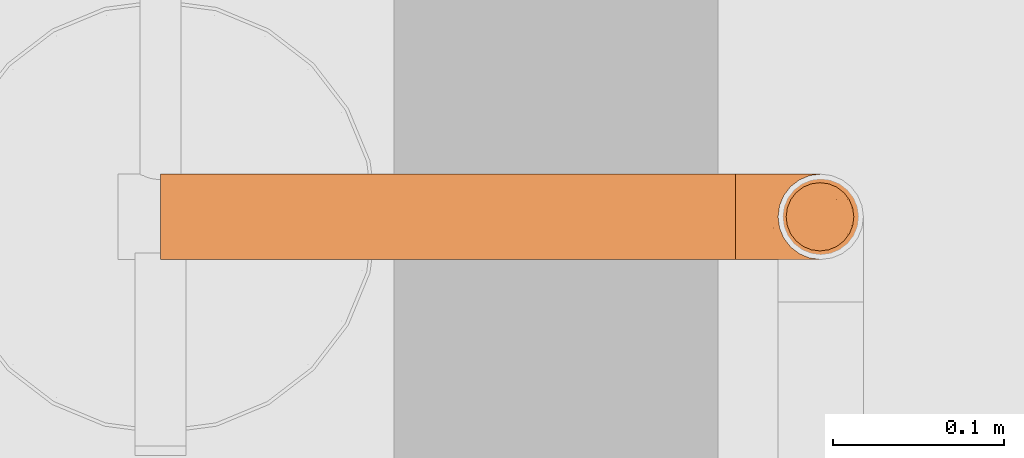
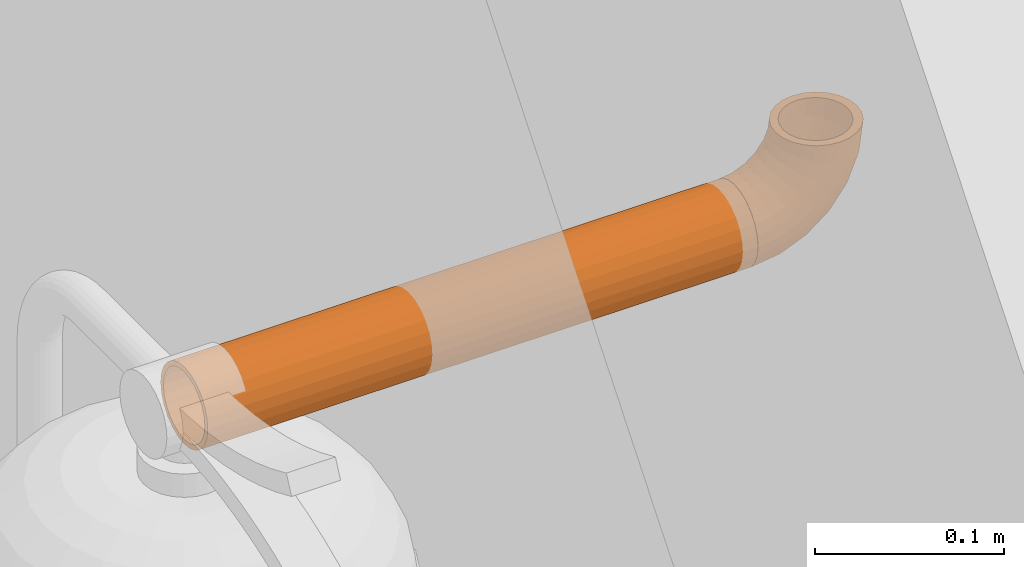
# One storey, part 111 of 112: 2 proxies.
"""IFC2X3 building model written with IfcOpenShell, lengths in millimetres."""

import ifcopenshell
import ifcopenshell.guid

model = None  # the IFC model being written
_history = None  # IfcOwnerHistory: only IFC2X3 demands one
_inside = {}  # id of a spatial element -> (the spatial element, [elements in it])
_under = {}  # id of a project, library or spatial element -> (it, [spatial elements below it])
_declared = {}  # id of a project -> (the project, [libraries it declares])
_typed = {}  # id of a type object -> (the type object, [elements of that type])
_made_of = {}  # id of a material, layer set ... -> (it, [elements and type objects made of it])


def new_model(schema):
    """Start an empty IFC model of exactly this schema.

    Asked for "IFC4X3", IfcOpenShell would pick the latest addendum, in which some entities
    have other attributes; the version numbers below select the first issue.
    IFC2X3 requires an IfcOwnerHistory on every rooted entity: one is made here for all.
    """
    global model, _history
    if schema == "IFC4X3":
        model = ifcopenshell.file(schema_version=(4, 3, 0, 0))
    else:
        model = ifcopenshell.file(schema=schema)
    _inside.clear()
    _under.clear()
    _declared.clear()
    _typed.clear()
    _made_of.clear()
    _history = None
    if model.schema == "IFC2X3":
        org = make("IfcOrganization", Name="unknown")
        user = make(
            "IfcPersonAndOrganization",
            ThePerson=make("IfcPerson", FamilyName="unknown"),
            TheOrganization=org,
        )
        app = make(
            "IfcApplication",
            ApplicationDeveloper=org,
            Version="unknown",
            ApplicationFullName="unknown",
            ApplicationIdentifier="unknown",
        )
        _history = make(
            "IfcOwnerHistory",
            OwningUser=user,
            OwningApplication=app,
            ChangeAction="ADDED",
            CreationDate=0,
        )
    return model


def make(cls, **values):
    """One entity of the class cls with the attributes given. An attribute that is None is left unset."""
    return model.create_entity(
        cls, **{name: value for name, value in values.items() if value is not None}
    )


def entity(cls, *values):
    """Any entity or typed value of the class cls, its attributes in the order of the schema. None: left unset."""
    e = model.create_entity(cls)
    for i, value in enumerate(values):
        if value is not None:
            e[i] = value
    return e


def rooted(cls, **values):
    """An entity with a GlobalId (a new one), such as an element, a storey or a relation."""
    return make(cls, GlobalId=ifcopenshell.guid.new(), OwnerHistory=_history, **values)


def si_unit(unit_type, name, prefix=None):
    """IfcSIUnit, for example si_unit("LENGTHUNIT", "METRE", prefix="MILLI")."""
    return make("IfcSIUnit", UnitType=unit_type, Prefix=prefix, Name=name)


def converted_unit(unit_type, name, factor, base, dimensions=None, offset=None):
    """IfcConversionBasedUnit, such as the inch: factor (a typed value) times the base unit."""
    return make(
        "IfcConversionBasedUnit"
        if offset is None
        else "IfcConversionBasedUnitWithOffset",
        ConversionOffset=offset,
        Dimensions=None
        if dimensions is None
        else entity("IfcDimensionalExponents", *dimensions),
        UnitType=unit_type,
        Name=name,
        ConversionFactor=make(
            "IfcMeasureWithUnit", ValueComponent=factor, UnitComponent=base
        ),
    )


def derived_unit(unit_type, elements):
    """IfcDerivedUnit: a product of units, each with its exponent."""
    return make(
        "IfcDerivedUnit",
        Elements=[
            make("IfcDerivedUnitElement", Unit=unit, Exponent=power)
            for unit, power in elements
        ],
        UnitType=unit_type,
    )


def money_unit(currency):
    """IfcMonetaryUnit."""
    return make("IfcMonetaryUnit", Currency=currency)


def assignment(units):
    """IfcUnitAssignment: the units of a project."""
    return None if units is None else make("IfcUnitAssignment", Units=units)


def point(xyz):
    """IfcCartesianPoint."""
    return None if xyz is None else make("IfcCartesianPoint", Coordinates=xyz)


def direction(xyz):
    """IfcDirection."""
    return None if xyz is None else make("IfcDirection", DirectionRatios=xyz)


def frame(location, z_axis=None, x_axis=None):
    """IfcAxis2Placement3D, a coordinate frame: its origin and axes. An axis left out is left unset."""
    return make(
        "IfcAxis2Placement3D",
        Location=point(location),
        Axis=direction(z_axis),
        RefDirection=direction(x_axis),
    )


def origin_with_axes():
    """The frame at (0, 0, 0) with the z axis (0, 0, 1) and the x axis (1, 0, 0) written out."""
    return frame((0.0, 0.0, 0.0), z_axis=(0.0, 0.0, 1.0), x_axis=(1.0, 0.0, 0.0))


def place(relative_to, where):
    """IfcLocalPlacement: puts the frame where relative to a parent placement (None: the world)."""
    return make(
        "IfcLocalPlacement", PlacementRelTo=relative_to, RelativePlacement=where
    )


def context(
    kind, dimensions, precision=None, world=None, true_north=None, identifier=None
):
    """IfcGeometricRepresentationContext, for example the 3D "Model" context."""
    return make(
        "IfcGeometricRepresentationContext",
        ContextIdentifier=identifier,
        ContextType=kind,
        CoordinateSpaceDimension=dimensions,
        Precision=precision,
        WorldCoordinateSystem=world,
        TrueNorth=true_north,
    )


def subcontext(parent, identifier, kind, view, scale=None):
    """IfcGeometricRepresentationSubContext, for example "Body" below "Model"."""
    return make(
        "IfcGeometricRepresentationSubContext",
        ContextIdentifier=identifier,
        ContextType=kind,
        ParentContext=parent,
        TargetScale=scale,
        TargetView=view,
    )


def project(units=None, contexts=None):
    """IfcProject with its units and contexts."""
    return rooted(
        "IfcProject",
        Name="project",
        RepresentationContexts=contexts,
        UnitsInContext=assignment(units),
    )


def spatial(cls, under=None, at=None, **own):
    """A site, building, storey or space (cls), placed at a placement, below another one or the project."""
    s = rooted(cls, ObjectPlacement=at, **own)
    if under is not None:
        _under.setdefault(under.id(), (under, []))[1].append(s)
    return s


def faces_of(points, faces, orient=None, outer=None):
    """IfcFace entities. A face is a list of loops; a loop is a list of indices into points, from 0.

    orient and outer hold one flag for each loop. By default every Orientation is true, the
    first loop of a face is its IfcFaceOuterBound and the others are IfcFaceBound.
    """
    made = []
    for i, loops in enumerate(faces):
        bounds = []
        for j, loop in enumerate(loops):
            is_outer = j == 0 if outer is None else outer[i][j]
            bounds.append(
                make(
                    "IfcFaceOuterBound" if is_outer else "IfcFaceBound",
                    Bound=make("IfcPolyLoop", Polygon=[points[k] for k in loop]),
                    Orientation=True if orient is None else orient[i][j],
                )
            )
        made.append(make("IfcFace", Bounds=bounds))
    return made


def faceted_brep(points, faces, orient=None, outer=None, voids=None):
    """IfcFacetedBrep: a solid bounded by flat faces; with voids (closed shells), ...WithVoids."""
    shared = [point(p) for p in points]
    hull = make("IfcClosedShell", CfsFaces=faces_of(shared, faces, orient, outer))
    if voids is None:
        return make("IfcFacetedBrep", Outer=hull)
    return make(
        "IfcFacetedBrepWithVoids",
        Outer=hull,
        Voids=[
            make(cls, CfsFaces=faces_of(shared, fs, o, b)) for cls, fs, o, b in voids
        ],
    )


def shape(context_of_items, identifier, shape_type, items):
    """IfcShapeRepresentation: the items that make up one representation, for example the "Body"."""
    return make(
        "IfcShapeRepresentation",
        ContextOfItems=context_of_items,
        RepresentationIdentifier=identifier,
        RepresentationType=shape_type,
        Items=items,
    )


def made_of(thing, what):
    """Note that an element or type object is made of a material, layer set ...; save() writes the relation."""
    if what is not None:
        _made_of.setdefault(what.id(), (what, []))[1].append(thing)
    return thing


def type_object(cls, material=None, **own):
    """A type object (cls), such as IfcWallType, which elements share."""
    return made_of(rooted(cls, **own), material)


def element(
    cls,
    number,
    at=None,
    inside=None,
    cuts=None,
    type_object=None,
    material=None,
    context=None,
    identifier="Body",
    shape_type=None,
    held_by="IfcProductDefinitionShape",
    body=None,
    shapes=None,
    **own,
):
    """One element of the class cls, such as IfcWall. Its Tag is "e" and its number.

    at: its placement. inside: the storey or other place that contains it. cuts: it is an
    opening in that element (IfcRelVoidsElement). A single representation is given by context,
    identifier, shape_type and body (its items); several are given by shapes. held_by: the class
    of the entity that holds the representations. save() writes the other relations.
    """
    e = rooted(cls, Tag="e%d" % number, ObjectPlacement=at, **own)
    if body is not None:
        shapes = [shape(context, identifier, shape_type, body)]
    if shapes is not None:
        e.Representation = make(held_by, Representations=shapes)
    if inside is not None:
        _inside.setdefault(inside.id(), (inside, []))[1].append(e)
    if cuts is not None:
        rooted(
            "IfcRelVoidsElement", RelatingBuildingElement=cuts, RelatedOpeningElement=e
        )
    if type_object is not None:
        _typed.setdefault(type_object.id(), (type_object, []))[1].append(e)
    return made_of(e, material)


def aggregate(whole, parts):
    """IfcRelAggregates: a whole, such as a stair, and the parts it consists of."""
    return rooted("IfcRelAggregates", RelatingObject=whole, RelatedObjects=parts)


def save(model, path):
    """Write the relations noted so far, then the file.

    IfcRelAggregates (storeys below a building ...), IfcRelContainedInSpatialStructure (elements
    in a storey), IfcRelDefinesByType, IfcRelAssociatesMaterial and IfcRelDeclares: one each for
    every whole, place, type object, material and project.
    """
    for whole, parts in _under.values():
        aggregate(whole, parts)
    for where, things in _inside.values():
        rooted(
            "IfcRelContainedInSpatialStructure",
            RelatedElements=things,
            RelatingStructure=where,
        )
    for kind, things in _typed.values():
        rooted("IfcRelDefinesByType", RelatedObjects=things, RelatingType=kind)
    for what, things in _made_of.values():
        rooted("IfcRelAssociatesMaterial", RelatedObjects=things, RelatingMaterial=what)
    for by, libraries in _declared.values():
        rooted("IfcRelDeclares", RelatingContext=by, RelatedDefinitions=libraries)
    model.write(path)


model = new_model("IFC2X3")

# Units and contexts
model_context = context("Model", 3, precision=0.01, world=origin_with_axes(), true_north=direction((0.0, 1.0)))
body_context = subcontext(model_context, "Body", "Model", "MODEL_VIEW")
ifc_project = project(units=[si_unit("LENGTHUNIT", "METRE", prefix="MILLI"), si_unit("AREAUNIT", "SQUARE_METRE"), si_unit("VOLUMEUNIT", "CUBIC_METRE"), converted_unit("PLANEANGLEUNIT", "DEGREE", entity("IfcPlaneAngleMeasure", 0.0174532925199), si_unit("PLANEANGLEUNIT", "RADIAN"), dimensions=[0, 0, 0, 0, 0, 0, 0]), si_unit("SOLIDANGLEUNIT", "STERADIAN"), money_unit("EUR"), converted_unit("TIMEUNIT", "Year", entity("IfcTimeMeasure", 31556926.0), si_unit("TIMEUNIT", "SECOND"), dimensions=[0, 0, 1, 0, 0, 0, 0]), si_unit("MASSUNIT", "GRAM", prefix="KILO"), si_unit("THERMODYNAMICTEMPERATUREUNIT", "DEGREE_CELSIUS"), si_unit("LUMINOUSINTENSITYUNIT", "LUMEN"), si_unit("ENERGYUNIT", "JOULE", prefix="MEGA"), derived_unit("THERMALCONDUCTANCEUNIT", [(si_unit("POWERUNIT", "WATT"), 1), (si_unit("LENGTHUNIT", "METRE"), -1), (si_unit("THERMODYNAMICTEMPERATUREUNIT", "KELVIN"), -1)]), derived_unit("SPECIFICHEATCAPACITYUNIT", [(si_unit("ENERGYUNIT", "JOULE"), 1), (si_unit("MASSUNIT", "GRAM", prefix="KILO"), -1), (si_unit("THERMODYNAMICTEMPERATUREUNIT", "KELVIN"), -1)]), derived_unit("MASSDENSITYUNIT", [(si_unit("MASSUNIT", "GRAM", prefix="KILO"), 1), (si_unit("VOLUMEUNIT", "CUBIC_METRE"), -1)])], contexts=[model_context])

# Site, building, storey
site_placement = place(None, origin_with_axes())
site = spatial("IfcSite", under=ifc_project, at=site_placement, Name="Politse- ja Piirivalveameti ning Päästeameti ühishoone", CompositionType="ELEMENT")
building_placement = place(site_placement, origin_with_axes())
building = spatial("IfcBuilding", under=site, at=building_placement, Name="Politse- ja Piirivalveameti ning Päästeameti ühishoone", CompositionType="ELEMENT")
storey_placement = place(building_placement, origin_with_axes())
storey = spatial("IfcBuildingStorey", under=building, at=storey_placement, Name="Esimene korrus", CompositionType="ELEMENT", Elevation=0.0)

# Proxies
building_element_proxy_type_1 = type_object("IfcBuildingElementProxyType", Name="Elbow Tube 23", PredefinedType="NOTDEFINED")
proxy_1_placement = place(storey_placement, frame((63060.6441918, 20253.9447321, 815.0), z_axis=(0.0, 0.0, 1.0), x_axis=(0.0, -1.0, 0.0)))
element("IfcBuildingElementProxy", 1, at=proxy_1_placement, inside=storey, type_object=building_element_proxy_type_1, Name="Balloon Novec 1232", context=body_context, shape_type="Brep", body=[
    faceted_brep([(-6.47047612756, 0.0, 24.1481456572), (-12.5, 0.0, 21.6506350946), (-17.6776695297, 0.0, 17.6776695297), (-21.6506350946, 0.0, 12.5), (-24.1481456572, 0.0, 6.47047612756), (-25.0, 0.0, 0.0), (-24.1481456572, 0.0, -6.47047612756), (-21.6506350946, 0.0, -12.5), (-17.6776695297, 0.0, -17.6776695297), (-12.5, 0.0, -21.6506350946), (-6.47047612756, 0.0, -24.1481456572), (0.0, 0.0, -25.0), (6.47047612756, 0.0, -24.1481456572), (12.5, 0.0, -21.6506350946), (17.6776695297, 0.0, -17.6776695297), (21.6506350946, 0.0, -12.5), (24.1481456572, 0.0, -6.47047612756), (25.0, 0.0, 0.0), (24.1481456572, 0.0, 6.47047612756), (21.6506350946, 0.0, 12.5), (17.6776695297, 0.0, 17.6776695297), (12.5, 0.0, 21.6506350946), (6.47047612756, 0.0, 24.1481456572), (0.0, 0.0, 25.0), (10.0, 0.0, 17.6107524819), (14.1421356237, 0.0, 14.4606088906), (17.3205080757, 0.0, 10.3552618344), (19.3185165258, 0.0, 5.57448393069), (20.0, 0.0, 0.444077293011), (19.3185165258, 0.0, -4.68632934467), (17.3205080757, 0.0, -9.46710724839), (14.1421356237, 0.0, -13.5724543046), (10.0, 0.0, -16.7225978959), (5.17638090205, 0.0, -18.7028609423), (0.0, 0.0, -19.3782917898), (-5.17638090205, 0.0, -18.7028609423), (-10.0, 0.0, -16.7225978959), (-14.1421356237, 0.0, -13.5724543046), (-17.3205080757, 0.0, -9.46710724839), (-19.3185165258, 0.0, -4.68632934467), (-20.0, 0.0, 0.444077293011), (-19.3185165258, 0.0, 5.57448393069), (-17.3205080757, 0.0, 10.3552618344), (-14.1421356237, 0.0, 14.4606088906), (-10.0, 0.0, 17.6107524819), (-5.17638090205, 0.0, 19.5910155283), (0.0, 0.0, 20.2664463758), (5.17638090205, 0.0, 19.5910155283), (-12.5, 7.33735555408, 22.616616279), (-6.47047612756, 6.69095225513, 25.0290262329), (-17.6776695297, 8.36563470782, 18.7790262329), (-21.6506350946, 9.70571419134, 13.7777815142), (-24.1481456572, 11.2662698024, 7.95370868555), (-25.0, 12.9409522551, 1.70370868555), (-24.1481456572, 14.6156347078, -4.54629131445), (-21.6506350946, 16.1761903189, -10.3703641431), (-17.6776695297, 17.5162698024, -15.3716088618), (-12.5, 18.5445489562, -19.2091989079), (-6.47047612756, 19.1909522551, -21.6216088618), (0.0, 19.4114283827, -22.4444369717), (6.47047612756, 19.1909522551, -21.6216088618), (12.5, 18.5445489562, -19.2091989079), (17.6776695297, 17.5162698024, -15.3716088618), (21.6506350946, 16.1761903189, -10.3703641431), (24.1481456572, 14.6156347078, -4.54629131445), (25.0, 12.9409522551, 1.70370868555), (24.1481456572, 11.2662698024, 7.95370868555), (21.6506350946, 9.70571419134, 13.7777815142), (17.6776695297, 8.36563470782, 18.7790262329), (12.5, 7.33735555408, 22.616616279), (6.47047612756, 6.69095225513, 25.0290262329), (0.0, 6.47047612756, 25.8518543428), (10.0, 6.60836752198, 17.9956460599), (14.1421356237, 7.25109028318, 14.8829368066), (17.3205080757, 8.08870289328, 10.8263751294), (19.3185165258, 9.06412343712, 6.10240900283), (20.0, 10.1108786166, 1.03296891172), (19.3185165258, 11.1576337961, -4.03647117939), (17.3205080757, 12.1330543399, -8.76043730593), (14.1421356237, 12.97066695, -12.8169989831), (10.0, 13.6133897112, -15.9297082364), (5.17638090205, 14.0174221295, -17.8864390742), (0.0, 14.1552300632, -18.5538435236), (-5.17638090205, 14.0174221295, -17.8864390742), (-10.0, 13.6133897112, -15.9297082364), (-14.1421356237, 12.97066695, -12.8169989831), (-17.3205080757, 12.1330543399, -8.76043730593), (-19.3185165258, 11.1576337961, -4.03647117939), (-20.0, 10.1108786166, 1.03296891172), (-19.3185165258, 9.06412343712, 6.10240900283), (-17.3205080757, 8.08870289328, 10.8263751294), (-14.1421356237, 7.25109028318, 14.8829368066), (-10.0, 6.60836752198, 17.9956460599), (-5.17638090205, 6.2043351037, 19.9523768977), (0.0, 6.06652716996, 20.619781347), (5.17638090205, 6.2043351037, 19.9523768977), (-12.5, 14.1746824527, 25.4487298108), (-6.47047612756, 12.9259271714, 27.6116374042), (-17.6776695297, 16.1611652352, 22.0080407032), (-21.6506350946, 18.75, 17.5240473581), (-24.1481456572, 21.7647619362, 12.3023265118), (-25.0, 25.0, 6.69872981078), (-24.1481456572, 28.2352380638, 1.09513310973), (-21.6506350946, 31.25, -4.12658773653), (-17.6776695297, 33.8388347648, -8.61058108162), (-12.5, 35.8253175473, -12.0512701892), (-6.47047612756, 37.0740728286, -14.2141777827), (0.0, 37.5, -14.9519052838), (6.47047612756, 37.0740728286, -14.2141777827), (12.5, 35.8253175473, -12.0512701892), (17.6776695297, 33.8388347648, -8.61058108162), (21.6506350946, 31.25, -4.12658773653), (24.1481456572, 28.2352380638, 1.09513310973), (25.0, 25.0, 6.69872981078), (24.1481456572, 21.7647619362, 12.3023265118), (21.6506350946, 18.75, 17.5240473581), (17.6776695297, 16.1611652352, 22.0080407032), (12.5, 14.1746824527, 25.4487298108), (6.47047612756, 12.9259271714, 27.6116374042), (0.0, 12.5, 28.3493649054), (14.1421356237, 17.0181556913, 18.4378578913), (10.0, 15.5096989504, 21.2354657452), (17.3205080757, 18.9840147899, 14.7919443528), (19.3185165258, 21.2733061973, 10.5461881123), (20.0, 23.7300184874, 5.98993044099), (19.3185165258, 26.1867307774, 1.43367276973), (17.3205080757, 28.4760221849, -2.81208347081), (14.1421356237, 30.4418812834, -6.45799700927), (10.0, 31.9503380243, -9.25560486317), (5.17638090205, 32.8985935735, -11.0142546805), (0.0, 33.2220258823, -11.6140973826), (-5.17638090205, 32.8985935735, -11.0142546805), (-10.0, 31.9503380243, -9.25560486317), (-14.1421356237, 30.4418812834, -6.45799700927), (-17.3205080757, 28.4760221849, -2.81208347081), (-19.3185165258, 26.1867307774, 1.43367276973), (-20.0, 23.7300184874, 5.98993044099), (-19.3185165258, 21.2733061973, 10.5461881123), (-17.3205080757, 18.9840147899, 14.7919443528), (-14.1421356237, 17.0181556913, 18.4378578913), (-10.0, 15.5096989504, 21.2354657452), (-5.17638090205, 14.5614434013, 22.9941155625), (0.0, 14.2380110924, 23.5939582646), (5.17638090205, 14.5614434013, 22.9941155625), (-12.5, 20.0460281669, 29.9539718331), (-6.47047612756, 18.280021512, 31.719978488), (-17.6776695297, 22.8553390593, 27.1446609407), (-21.6506350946, 26.5165042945, 23.4834957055), (-24.1481456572, 30.780021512, 19.219978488), (-25.0, 35.3553390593, 14.6446609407), (-24.1481456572, 39.9306566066, 10.0693433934), (-21.6506350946, 44.1941738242, 5.80582617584), (-17.6776695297, 47.8553390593, 2.14466094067), (-12.5, 50.6646499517, -0.664649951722), (-6.47047612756, 52.4306566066, -2.43065660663), (0.0, 53.033008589, -3.03300858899), (6.47047612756, 52.4306566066, -2.43065660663), (12.5, 50.6646499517, -0.664649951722), (17.6776695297, 47.8553390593, 2.14466094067), (21.6506350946, 44.1941738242, 5.80582617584), (24.1481456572, 39.9306566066, 10.0693433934), (25.0, 35.3553390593, 14.6446609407), (24.1481456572, 30.780021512, 19.219978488), (21.6506350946, 26.5165042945, 23.4834957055), (17.6776695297, 22.8553390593, 27.1446609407), (12.5, 20.0460281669, 29.9539718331), (6.47047612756, 18.280021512, 31.719978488), (0.0, 17.6776695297, 32.3223304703), (14.1421356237, 25.3553390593, 24.6446609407), (10.0, 23.1078903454, 26.8921096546), (17.3205080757, 28.2842712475, 21.7157287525), (19.3185165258, 31.6950850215, 18.3049149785), (20.0, 35.3553390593, 14.6446609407), (19.3185165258, 39.0155930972, 10.9844069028), (17.3205080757, 42.4264068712, 7.57359312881), (14.1421356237, 45.3553390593, 4.64466094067), (10.0, 47.6027877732, 2.39721222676), (5.17638090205, 49.0155930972, 0.984406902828), (0.0, 49.4974746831, 0.502525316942), (-5.17638090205, 49.0155930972, 0.984406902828), (-10.0, 47.6027877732, 2.39721222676), (-14.1421356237, 45.3553390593, 4.64466094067), (-17.3205080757, 42.4264068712, 7.57359312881), (-19.3185165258, 39.0155930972, 10.9844069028), (-20.0, 35.3553390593, 14.6446609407), (-19.3185165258, 31.6950850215, 18.3049149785), (-17.3205080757, 28.2842712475, 21.7157287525), (-14.1421356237, 25.3553390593, 24.6446609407), (-10.0, 23.1078903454, 26.8921096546), (-5.17638090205, 21.6950850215, 28.3049149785), (0.0, 21.2132034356, 28.7867965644), (5.17638090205, 21.6950850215, 28.3049149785), (-12.5, 24.5512701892, 35.8253175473), (-6.47047612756, 22.3883625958, 37.0740728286), (-17.6776695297, 27.9919592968, 33.8388347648), (-21.6506350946, 32.4759526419, 31.25), (-24.1481456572, 37.6976734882, 28.2352380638), (-25.0, 43.3012701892, 25.0), (-24.1481456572, 48.9048668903, 21.7647619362), (-21.6506350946, 54.1265877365, 18.75), (-17.6776695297, 58.6105810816, 16.1611652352), (-12.5, 62.0512701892, 14.1746824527), (-6.47047612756, 64.2141777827, 12.9259271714), (0.0, 64.9519052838, 12.5), (6.47047612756, 64.2141777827, 12.9259271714), (12.5, 62.0512701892, 14.1746824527), (17.6776695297, 58.6105810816, 16.1611652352), (21.6506350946, 54.1265877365, 18.75), (24.1481456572, 48.9048668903, 21.7647619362), (25.0, 43.3012701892, 25.0), (24.1481456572, 37.6976734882, 28.2352380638), (21.6506350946, 32.4759526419, 31.25), (17.6776695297, 27.9919592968, 33.8388347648), (12.5, 24.5512701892, 35.8253175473), (6.47047612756, 22.3883625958, 37.0740728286), (0.0, 21.6506350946, 37.5), (14.1421356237, 31.5621421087, 32.9818443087), (10.0, 28.7645342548, 34.4903010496), (17.3205080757, 35.2080556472, 31.0159852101), (19.3185165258, 39.4538118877, 28.7266938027), (20.0, 44.010069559, 26.2699815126), (19.3185165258, 48.5663272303, 23.8132692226), (17.3205080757, 52.8120834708, 21.5239778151), (14.1421356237, 56.4579970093, 19.5581187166), (10.0, 59.2556048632, 18.0496619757), (5.17638090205, 61.0142546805, 17.1014064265), (0.0, 61.6140973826, 16.7779741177), (-5.17638090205, 61.0142546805, 17.1014064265), (-10.0, 59.2556048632, 18.0496619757), (-14.1421356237, 56.4579970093, 19.5581187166), (-17.3205080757, 52.8120834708, 21.5239778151), (-19.3185165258, 48.5663272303, 23.8132692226), (-20.0, 44.010069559, 26.2699815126), (-19.3185165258, 39.4538118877, 28.7266938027), (-17.3205080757, 35.2080556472, 31.0159852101), (-14.1421356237, 31.5621421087, 32.9818443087), (-10.0, 28.7645342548, 34.4903010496), (-5.17638090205, 27.0058844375, 35.4385565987), (0.0, 26.4060417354, 35.7619889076), (5.17638090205, 27.0058844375, 35.4385565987), (-12.5, 27.383383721, 42.6626444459), (-6.47047612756, 24.9709737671, 43.3090477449), (-17.6776695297, 31.2209737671, 41.6343652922), (-21.6506350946, 36.2222184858, 40.2942858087), (-24.1481456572, 42.0462913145, 38.7337301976), (-25.0, 48.2962913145, 37.0590477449), (-24.1481456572, 54.5462913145, 35.3843652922), (-21.6506350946, 60.3703641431, 33.8238096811), (-17.6776695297, 65.3716088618, 32.4837301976), (-12.5, 69.2091989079, 31.4554510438), (-6.47047612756, 71.6216088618, 30.8090477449), (0.0, 72.4444369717, 30.5885716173), (6.47047612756, 71.6216088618, 30.8090477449), (12.5, 69.2091989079, 31.4554510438), (17.6776695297, 65.3716088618, 32.4837301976), (21.6506350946, 60.3703641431, 33.8238096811), (24.1481456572, 54.5462913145, 35.3843652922), (25.0, 48.2962913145, 37.0590477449), (24.1481456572, 42.0462913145, 38.7337301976), (21.6506350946, 36.2222184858, 40.2942858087), (17.6776695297, 31.2209737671, 41.6343652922), (12.5, 27.383383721, 42.6626444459), (6.47047612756, 24.9709737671, 43.3090477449), (0.0, 24.1481456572, 43.5295238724), (14.1421356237, 35.1170631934, 42.7489097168), (10.0, 32.0043539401, 43.391632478), (17.3205080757, 39.1736248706, 41.9112971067), (19.3185165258, 43.8975909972, 40.9358765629), (20.0, 48.9670310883, 39.8891213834), (19.3185165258, 54.0364711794, 38.8423662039), (17.3205080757, 58.7604373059, 37.8669456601), (14.1421356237, 62.8169989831, 37.02933305), (10.0, 65.9297082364, 36.3866102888), (5.17638090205, 67.8864390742, 35.9825778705), (0.0, 68.5538435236, 35.8447699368), (-5.17638090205, 67.8864390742, 35.9825778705), (-10.0, 65.9297082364, 36.3866102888), (-14.1421356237, 62.8169989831, 37.02933305), (-17.3205080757, 58.7604373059, 37.8669456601), (-19.3185165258, 54.0364711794, 38.8423662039), (-20.0, 48.9670310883, 39.8891213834), (-19.3185165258, 43.8975909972, 40.9358765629), (-17.3205080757, 39.1736248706, 41.9112971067), (-14.1421356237, 35.1170631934, 42.7489097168), (-10.0, 32.0043539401, 43.391632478), (-5.17638090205, 30.0476231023, 43.7956648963), (0.0, 29.380218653, 43.93347283), (5.17638090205, 30.0476231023, 43.7956648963), (-12.5, 28.3493649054, 50.0), (-6.47047612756, 25.8518543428, 50.0), (-17.6776695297, 32.3223304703, 50.0), (-21.6506350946, 37.5, 50.0), (-24.1481456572, 43.5295238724, 50.0), (-25.0, 50.0, 50.0), (-24.1481456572, 56.4704761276, 50.0), (-21.6506350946, 62.5, 50.0), (-17.6776695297, 67.6776695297, 50.0), (-12.5, 71.6506350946, 50.0), (-6.47047612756, 74.1481456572, 50.0), (0.0, 75.0, 50.0), (6.47047612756, 74.1481456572, 50.0), (12.5, 71.6506350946, 50.0), (17.6776695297, 67.6776695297, 50.0), (21.6506350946, 62.5, 50.0), (24.1481456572, 56.4704761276, 50.0), (25.0, 50.0, 50.0), (24.1481456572, 43.5295238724, 50.0), (21.6506350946, 37.5, 50.0), (17.6776695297, 32.3223304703, 50.0), (12.5, 28.3493649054, 50.0), (6.47047612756, 25.8518543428, 50.0), (0.0, 25.0, 50.0), (14.1421356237, 35.5393911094, 50.0), (10.0, 32.3892475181, 50.0), (17.3205080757, 39.6447381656, 50.0), (19.3185165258, 44.4255160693, 50.0), (20.0, 49.555922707, 50.0), (19.3185165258, 54.6863293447, 50.0), (17.3205080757, 59.4671072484, 50.0), (14.1421356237, 63.5724543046, 50.0), (10.0, 66.7225978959, 50.0), (5.17638090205, 68.7028609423, 50.0), (0.0, 69.3782917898, 50.0), (-5.17638090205, 68.7028609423, 50.0), (-10.0, 66.7225978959, 50.0), (-14.1421356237, 63.5724543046, 50.0), (-17.3205080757, 59.4671072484, 50.0), (-19.3185165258, 54.6863293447, 50.0), (-20.0, 49.555922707, 50.0), (-19.3185165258, 44.4255160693, 50.0), (-17.3205080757, 39.6447381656, 50.0), (-14.1421356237, 35.5393911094, 50.0), (-10.0, 32.3892475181, 50.0), (-5.17638090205, 30.4089844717, 50.0), (0.0, 29.7335536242, 50.0), (5.17638090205, 30.4089844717, 50.0)], [[[0, 1, 2, 3, 4, 5, 6, 7, 8, 9, 10, 11, 12, 13, 14, 15, 16, 17, 18, 19, 20, 21, 22, 23], [24, 25, 26, 27, 28, 29, 30, 31, 32, 33, 34, 35, 36, 37, 38, 39, 40, 41, 42, 43, 44, 45, 46, 47]], [[48, 1, 0, 49]], [[50, 2, 1, 48]], [[51, 3, 2, 50]], [[52, 4, 3, 51]], [[53, 5, 4, 52]], [[54, 6, 5, 53]], [[55, 7, 6, 54]], [[56, 8, 7, 55]], [[57, 9, 8, 56]], [[58, 10, 9, 57]], [[59, 11, 10, 58]], [[60, 12, 11, 59]], [[61, 13, 12, 60]], [[62, 14, 13, 61]], [[63, 15, 14, 62]], [[64, 16, 15, 63]], [[65, 17, 16, 64]], [[66, 18, 17, 65]], [[67, 19, 18, 66]], [[68, 20, 19, 67]], [[69, 21, 20, 68]], [[70, 22, 21, 69]], [[71, 23, 22, 70]], [[49, 0, 23, 71]], [[24, 72, 73, 25]], [[25, 73, 74, 26]], [[26, 74, 75, 27]], [[27, 75, 76, 28]], [[28, 76, 77, 29]], [[29, 77, 78, 30]], [[30, 78, 79, 31]], [[31, 79, 80, 32]], [[32, 80, 81, 33]], [[33, 81, 82, 34]], [[34, 82, 83, 35]], [[35, 83, 84, 36]], [[36, 84, 85, 37]], [[37, 85, 86, 38]], [[38, 86, 87, 39]], [[39, 87, 88, 40]], [[40, 88, 89, 41]], [[41, 89, 90, 42]], [[42, 90, 91, 43]], [[43, 91, 92, 44]], [[44, 92, 93, 45]], [[45, 93, 94, 46]], [[46, 94, 95, 47]], [[47, 95, 72, 24]], [[96, 48, 49, 97]], [[98, 50, 48, 96]], [[99, 51, 50, 98]], [[100, 52, 51, 99]], [[101, 53, 52, 100]], [[102, 54, 53, 101]], [[103, 55, 54, 102]], [[104, 56, 55, 103]], [[105, 57, 56, 104]], [[106, 58, 57, 105]], [[107, 59, 58, 106]], [[108, 60, 59, 107]], [[109, 61, 60, 108]], [[110, 62, 61, 109]], [[111, 63, 62, 110]], [[112, 64, 63, 111]], [[113, 65, 64, 112]], [[114, 66, 65, 113]], [[115, 67, 66, 114]], [[116, 68, 67, 115]], [[117, 69, 68, 116]], [[118, 70, 69, 117]], [[119, 71, 70, 118]], [[97, 49, 71, 119]], [[120, 73, 72, 121]], [[122, 74, 73, 120]], [[123, 75, 74, 122]], [[124, 76, 75, 123]], [[125, 77, 76, 124]], [[126, 78, 77, 125]], [[127, 79, 78, 126]], [[128, 80, 79, 127]], [[129, 81, 80, 128]], [[130, 82, 81, 129]], [[131, 83, 82, 130]], [[132, 84, 83, 131]], [[133, 85, 84, 132]], [[134, 86, 85, 133]], [[135, 87, 86, 134]], [[136, 88, 87, 135]], [[137, 89, 88, 136]], [[138, 90, 89, 137]], [[139, 91, 90, 138]], [[140, 92, 91, 139]], [[141, 93, 92, 140]], [[142, 94, 93, 141]], [[143, 95, 94, 142]], [[121, 72, 95, 143]], [[144, 96, 97, 145]], [[146, 98, 96, 144]], [[147, 99, 98, 146]], [[148, 100, 99, 147]], [[149, 101, 100, 148]], [[150, 102, 101, 149]], [[151, 103, 102, 150]], [[152, 104, 103, 151]], [[153, 105, 104, 152]], [[154, 106, 105, 153]], [[155, 107, 106, 154]], [[156, 108, 107, 155]], [[157, 109, 108, 156]], [[158, 110, 109, 157]], [[159, 111, 110, 158]], [[160, 112, 111, 159]], [[161, 113, 112, 160]], [[162, 114, 113, 161]], [[163, 115, 114, 162]], [[164, 116, 115, 163]], [[165, 117, 116, 164]], [[166, 118, 117, 165]], [[167, 119, 118, 166]], [[145, 97, 119, 167]], [[168, 120, 121, 169]], [[170, 122, 120, 168]], [[171, 123, 122, 170]], [[172, 124, 123, 171]], [[173, 125, 124, 172]], [[174, 126, 125, 173]], [[175, 127, 126, 174]], [[176, 128, 127, 175]], [[177, 129, 128, 176]], [[178, 130, 129, 177]], [[179, 131, 130, 178]], [[180, 132, 131, 179]], [[181, 133, 132, 180]], [[182, 134, 133, 181]], [[183, 135, 134, 182]], [[184, 136, 135, 183]], [[185, 137, 136, 184]], [[186, 138, 137, 185]], [[187, 139, 138, 186]], [[188, 140, 139, 187]], [[189, 141, 140, 188]], [[190, 142, 141, 189]], [[191, 143, 142, 190]], [[169, 121, 143, 191]], [[192, 144, 145, 193]], [[194, 146, 144, 192]], [[195, 147, 146, 194]], [[196, 148, 147, 195]], [[197, 149, 148, 196]], [[198, 150, 149, 197]], [[199, 151, 150, 198]], [[200, 152, 151, 199]], [[201, 153, 152, 200]], [[202, 154, 153, 201]], [[203, 155, 154, 202]], [[204, 156, 155, 203]], [[205, 157, 156, 204]], [[206, 158, 157, 205]], [[207, 159, 158, 206]], [[208, 160, 159, 207]], [[209, 161, 160, 208]], [[210, 162, 161, 209]], [[211, 163, 162, 210]], [[212, 164, 163, 211]], [[213, 165, 164, 212]], [[214, 166, 165, 213]], [[215, 167, 166, 214]], [[193, 145, 167, 215]], [[216, 168, 169, 217]], [[218, 170, 168, 216]], [[219, 171, 170, 218]], [[220, 172, 171, 219]], [[221, 173, 172, 220]], [[222, 174, 173, 221]], [[223, 175, 174, 222]], [[224, 176, 175, 223]], [[225, 177, 176, 224]], [[226, 178, 177, 225]], [[227, 179, 178, 226]], [[228, 180, 179, 227]], [[229, 181, 180, 228]], [[230, 182, 181, 229]], [[231, 183, 182, 230]], [[232, 184, 183, 231]], [[233, 185, 184, 232]], [[234, 186, 185, 233]], [[235, 187, 186, 234]], [[236, 188, 187, 235]], [[237, 189, 188, 236]], [[238, 190, 189, 237]], [[239, 191, 190, 238]], [[217, 169, 191, 239]], [[240, 192, 193, 241]], [[242, 194, 192, 240]], [[243, 195, 194, 242]], [[244, 196, 195, 243]], [[245, 197, 196, 244]], [[246, 198, 197, 245]], [[247, 199, 198, 246]], [[248, 200, 199, 247]], [[249, 201, 200, 248]], [[250, 202, 201, 249]], [[251, 203, 202, 250]], [[252, 204, 203, 251]], [[253, 205, 204, 252]], [[254, 206, 205, 253]], [[255, 207, 206, 254]], [[256, 208, 207, 255]], [[257, 209, 208, 256]], [[258, 210, 209, 257]], [[259, 211, 210, 258]], [[260, 212, 211, 259]], [[261, 213, 212, 260]], [[262, 214, 213, 261]], [[263, 215, 214, 262]], [[241, 193, 215, 263]], [[264, 216, 217, 265]], [[266, 218, 216, 264]], [[267, 219, 218, 266]], [[268, 220, 219, 267]], [[269, 221, 220, 268]], [[270, 222, 221, 269]], [[271, 223, 222, 270]], [[272, 224, 223, 271]], [[273, 225, 224, 272]], [[274, 226, 225, 273]], [[275, 227, 226, 274]], [[276, 228, 227, 275]], [[277, 229, 228, 276]], [[278, 230, 229, 277]], [[279, 231, 230, 278]], [[280, 232, 231, 279]], [[281, 233, 232, 280]], [[282, 234, 233, 281]], [[283, 235, 234, 282]], [[284, 236, 235, 283]], [[285, 237, 236, 284]], [[286, 238, 237, 285]], [[287, 239, 238, 286]], [[265, 217, 239, 287]], [[288, 240, 241, 289]], [[290, 242, 240, 288]], [[291, 243, 242, 290]], [[292, 244, 243, 291]], [[293, 245, 244, 292]], [[294, 246, 245, 293]], [[295, 247, 246, 294]], [[296, 248, 247, 295]], [[297, 249, 248, 296]], [[298, 250, 249, 297]], [[299, 251, 250, 298]], [[300, 252, 251, 299]], [[301, 253, 252, 300]], [[302, 254, 253, 301]], [[303, 255, 254, 302]], [[304, 256, 255, 303]], [[305, 257, 256, 304]], [[306, 258, 257, 305]], [[307, 259, 258, 306]], [[308, 260, 259, 307]], [[309, 261, 260, 308]], [[310, 262, 261, 309]], [[311, 263, 262, 310]], [[289, 241, 263, 311]], [[312, 264, 265, 313]], [[314, 266, 264, 312]], [[315, 267, 266, 314]], [[316, 268, 267, 315]], [[317, 269, 268, 316]], [[318, 270, 269, 317]], [[319, 271, 270, 318]], [[320, 272, 271, 319]], [[321, 273, 272, 320]], [[322, 274, 273, 321]], [[323, 275, 274, 322]], [[324, 276, 275, 323]], [[325, 277, 276, 324]], [[326, 278, 277, 325]], [[327, 279, 278, 326]], [[328, 280, 279, 327]], [[329, 281, 280, 328]], [[330, 282, 281, 329]], [[331, 283, 282, 330]], [[332, 284, 283, 331]], [[333, 285, 284, 332]], [[334, 286, 285, 333]], [[335, 287, 286, 334]], [[313, 265, 287, 335]], [[310, 309, 308, 307, 306, 305, 304, 303, 302, 301, 300, 299, 298, 297, 296, 295, 294, 293, 292, 291, 290, 288, 289, 311], [326, 325, 324, 323, 322, 321, 320, 319, 318, 317, 316, 315, 314, 312, 313, 335, 334, 333, 332, 331, 330, 329, 328, 327]]]),
])
building_element_proxy_type_2 = type_object("IfcBuildingElementProxyType", Name="Tube 23", PredefinedType="NOTDEFINED")
proxy_2_placement = place(storey_placement, frame((62723.8569953, 20253.9447321, 815.0), z_axis=(0.0, 0.0, 1.0), x_axis=(-1.0, 0.0, 0.0)))
element("IfcBuildingElementProxy", 2, at=proxy_2_placement, inside=storey, type_object=building_element_proxy_type_2, Name="Balloon Novec 1231", context=body_context, shape_type="Brep", body=[
    faceted_brep([(0.0, 0.0, -25.0), (0.0, 6.47047612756, -24.1481456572), (0.0, 12.5, -21.6506350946), (0.0, 17.6776695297, -17.6776695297), (0.0, 21.6506350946, -12.5), (0.0, 24.1481456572, -6.47047612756), (0.0, 25.0, 0.0), (0.0, 24.1481456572, 6.47047612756), (0.0, 21.6506350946, 12.5), (0.0, 17.6776695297, 17.6776695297), (0.0, 12.5, 21.6506350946), (0.0, 6.47047612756, 24.1481456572), (0.0, 0.0, 25.0), (0.0, -6.47047612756, 24.1481456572), (0.0, -12.5, 21.6506350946), (0.0, -17.6776695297, 17.6776695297), (0.0, -21.6506350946, 12.5), (0.0, -24.1481456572, 6.47047612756), (0.0, -25.0, 0.0), (0.0, -24.1481456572, -6.47047612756), (0.0, -21.6506350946, -12.5), (0.0, -17.6776695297, -17.6776695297), (0.0, -12.5, -21.6506350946), (0.0, -6.47047612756, -24.1481456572), (0.0, -11.0, -19.0525588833), (0.0, -15.5563491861, -15.5563491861), (0.0, -19.0525588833, -11.0), (0.0, -21.2503681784, -5.69401899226), (0.0, -22.0, 0.0), (0.0, -21.2503681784, 5.69401899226), (0.0, -19.0525588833, 11.0), (0.0, -15.5563491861, 15.5563491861), (0.0, -11.0, 19.0525588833), (0.0, -5.69401899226, 21.2503681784), (0.0, 0.0, 22.0), (0.0, 5.69401899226, 21.2503681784), (0.0, 11.0, 19.0525588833), (0.0, 15.5563491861, 15.5563491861), (0.0, 19.0525588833, 11.0), (0.0, 21.2503681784, 5.69401899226), (0.0, 22.0, 0.0), (0.0, 21.2503681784, -5.69401899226), (0.0, 19.0525588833, -11.0), (0.0, 15.5563491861, -15.5563491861), (0.0, 11.0, -19.0525588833), (0.0, 5.69401899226, -21.2503681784), (0.0, 0.0, -22.0), (0.0, -5.69401899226, -21.2503681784), (-336.78719644, 0.0, -25.0), (-336.78719644, 6.47047612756, -24.1481456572), (-336.78719644, 12.5, -21.6506350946), (-336.78719644, 17.6776695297, -17.6776695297), (-336.78719644, 21.6506350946, -12.5), (-336.78719644, 24.1481456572, -6.47047612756), (-336.78719644, 25.0, 0.0), (-336.78719644, 24.1481456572, 6.47047612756), (-336.78719644, 21.6506350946, 12.5), (-336.78719644, 17.6776695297, 17.6776695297), (-336.78719644, 12.5, 21.6506350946), (-336.78719644, 6.47047612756, 24.1481456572), (-336.78719644, 0.0, 25.0), (-336.78719644, -6.47047612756, 24.1481456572), (-336.78719644, -12.5, 21.6506350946), (-336.78719644, -17.6776695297, 17.6776695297), (-336.78719644, -21.6506350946, 12.5), (-336.78719644, -24.1481456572, 6.47047612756), (-336.78719644, -25.0, 0.0), (-336.78719644, -24.1481456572, -6.47047612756), (-336.78719644, -21.6506350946, -12.5), (-336.78719644, -17.6776695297, -17.6776695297), (-336.78719644, -12.5, -21.6506350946), (-336.78719644, -6.47047612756, -24.1481456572), (-336.78719644, -15.5563491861, -15.5563491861), (-336.78719644, -11.0, -19.0525588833), (-336.78719644, -19.0525588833, -11.0), (-336.78719644, -21.2503681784, -5.69401899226), (-336.78719644, -22.0, 0.0), (-336.78719644, -21.2503681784, 5.69401899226), (-336.78719644, -19.0525588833, 11.0), (-336.78719644, -15.5563491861, 15.5563491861), (-336.78719644, -11.0, 19.0525588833), (-336.78719644, -5.69401899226, 21.2503681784), (-336.78719644, 0.0, 22.0), (-336.78719644, 5.69401899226, 21.2503681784), (-336.78719644, 11.0, 19.0525588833), (-336.78719644, 15.5563491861, 15.5563491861), (-336.78719644, 19.0525588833, 11.0), (-336.78719644, 21.2503681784, 5.69401899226), (-336.78719644, 22.0, 0.0), (-336.78719644, 21.2503681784, -5.69401899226), (-336.78719644, 19.0525588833, -11.0), (-336.78719644, 15.5563491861, -15.5563491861), (-336.78719644, 11.0, -19.0525588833), (-336.78719644, 5.69401899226, -21.2503681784), (-336.78719644, 0.0, -22.0), (-336.78719644, -5.69401899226, -21.2503681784)], [[[0, 1, 2, 3, 4, 5, 6, 7, 8, 9, 10, 11, 12, 13, 14, 15, 16, 17, 18, 19, 20, 21, 22, 23], [24, 25, 26, 27, 28, 29, 30, 31, 32, 33, 34, 35, 36, 37, 38, 39, 40, 41, 42, 43, 44, 45, 46, 47]], [[48, 49, 1, 0]], [[49, 50, 2, 1]], [[50, 51, 3, 2]], [[51, 52, 4, 3]], [[52, 53, 5, 4]], [[53, 54, 6, 5]], [[54, 55, 7, 6]], [[55, 56, 8, 7]], [[56, 57, 9, 8]], [[57, 58, 10, 9]], [[58, 59, 11, 10]], [[59, 60, 12, 11]], [[60, 61, 13, 12]], [[61, 62, 14, 13]], [[62, 63, 15, 14]], [[63, 64, 16, 15]], [[64, 65, 17, 16]], [[65, 66, 18, 17]], [[66, 67, 19, 18]], [[67, 68, 20, 19]], [[68, 69, 21, 20]], [[69, 70, 22, 21]], [[70, 71, 23, 22]], [[71, 48, 0, 23]], [[72, 25, 24, 73]], [[74, 26, 25, 72]], [[75, 27, 26, 74]], [[76, 28, 27, 75]], [[77, 29, 28, 76]], [[78, 30, 29, 77]], [[79, 31, 30, 78]], [[80, 32, 31, 79]], [[81, 33, 32, 80]], [[82, 34, 33, 81]], [[83, 35, 34, 82]], [[84, 36, 35, 83]], [[85, 37, 36, 84]], [[86, 38, 37, 85]], [[87, 39, 38, 86]], [[88, 40, 39, 87]], [[89, 41, 40, 88]], [[90, 42, 41, 89]], [[91, 43, 42, 90]], [[92, 44, 43, 91]], [[93, 45, 44, 92]], [[94, 46, 45, 93]], [[95, 47, 46, 94]], [[73, 24, 47, 95]], [[70, 69, 68, 67, 66, 65, 64, 63, 62, 61, 60, 59, 58, 57, 56, 55, 54, 53, 52, 51, 50, 49, 48, 71], [92, 91, 90, 89, 88, 87, 86, 85, 84, 83, 82, 81, 80, 79, 78, 77, 76, 75, 74, 72, 73, 95, 94, 93]]]),
])

save(model, "model.ifc")
